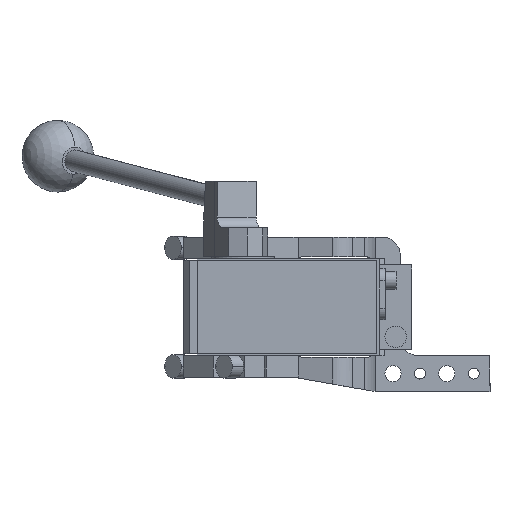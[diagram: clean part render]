
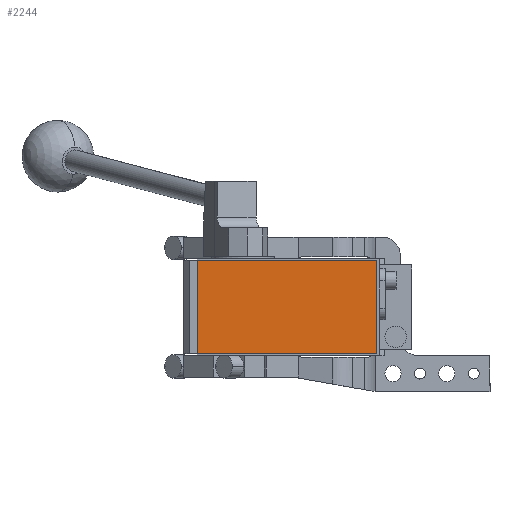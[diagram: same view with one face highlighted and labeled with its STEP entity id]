
A CAD part, front view. The second image highlights one B-rep face of the part: STEP entity #2244.
In plain terms, the highlighted planar face has unit normal (0, -1, 0).
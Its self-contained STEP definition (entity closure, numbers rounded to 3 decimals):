
#1184 = CARTESIAN_POINT ( 'NONE',  ( 81., -286.5, -26. ) ) ;
#1859 = FACE_OUTER_BOUND ( 'NONE', #4590, .T. ) ;
#2244 = ADVANCED_FACE ( 'NONE', ( #1859 ), #9102, .T. ) ;
#2976 = DIRECTION ( 'NONE',  ( 1., 0., 0. ) ) ;
#3292 = DIRECTION ( 'NONE',  ( 0., 0., -1. ) ) ;
#3613 = EDGE_CURVE ( 'NONE', #14226, #5163, #13148, .T. ) ;
#3776 = ORIENTED_EDGE ( 'NONE', *, *, #14640, .T. ) ;
#4367 = VECTOR ( 'NONE', #3292, 1000. ) ;
#4590 = EDGE_LOOP ( 'NONE', ( #11035, #3776, #8604, #5262 ) ) ;
#5120 = CARTESIAN_POINT ( 'NONE',  ( 81., -286.5, 26. ) ) ;
#5163 = VERTEX_POINT ( 'NONE', #12239 ) ;
#5262 = ORIENTED_EDGE ( 'NONE', *, *, #13924, .T. ) ;
#5460 = DIRECTION ( 'NONE',  ( -1., 0., 0. ) ) ;
#5546 = DIRECTION ( 'NONE',  ( 0., 0., -1. ) ) ;
#5781 = EDGE_CURVE ( 'NONE', #6378, #5872, #13251, .T. ) ;
#5872 = VERTEX_POINT ( 'NONE', #11257 ) ;
#6378 = VERTEX_POINT ( 'NONE', #1184 ) ;
#6560 = CARTESIAN_POINT ( 'NONE',  ( 0., -286.5, 0. ) ) ;
#6589 = LINE ( 'NONE', #12339, #13349 ) ;
#8604 = ORIENTED_EDGE ( 'NONE', *, *, #5781, .T. ) ;
#9005 = LINE ( 'NONE', #10300, #12569 ) ;
#9102 = PLANE ( 'NONE',  #9975 ) ;
#9879 = DIRECTION ( 'NONE',  ( 0., 0., 1. ) ) ;
#9975 = AXIS2_PLACEMENT_3D ( 'NONE', #6560, #14660, #5546 ) ;
#10300 = CARTESIAN_POINT ( 'NONE',  ( -19., -286.5, 26. ) ) ;
#11035 = ORIENTED_EDGE ( 'NONE', *, *, #3613, .T. ) ;
#11092 = VECTOR ( 'NONE', #9879, 1000. ) ;
#11257 = CARTESIAN_POINT ( 'NONE',  ( 81., -286.5, 26. ) ) ;
#12239 = CARTESIAN_POINT ( 'NONE',  ( -19., -286.5, -26. ) ) ;
#12339 = CARTESIAN_POINT ( 'NONE',  ( -19., -286.5, -26. ) ) ;
#12569 = VECTOR ( 'NONE', #5460, 1000. ) ;
#13148 = LINE ( 'NONE', #13798, #4367 ) ;
#13251 = LINE ( 'NONE', #5120, #11092 ) ;
#13349 = VECTOR ( 'NONE', #2976, 1000. ) ;
#13798 = CARTESIAN_POINT ( 'NONE',  ( -19., -286.5, 26. ) ) ;
#13924 = EDGE_CURVE ( 'NONE', #5872, #14226, #9005, .T. ) ;
#14226 = VERTEX_POINT ( 'NONE', #14782 ) ;
#14640 = EDGE_CURVE ( 'NONE', #5163, #6378, #6589, .T. ) ;
#14660 = DIRECTION ( 'NONE',  ( 0., -1., 0. ) ) ;
#14782 = CARTESIAN_POINT ( 'NONE',  ( -19., -286.5, 26. ) ) ;
